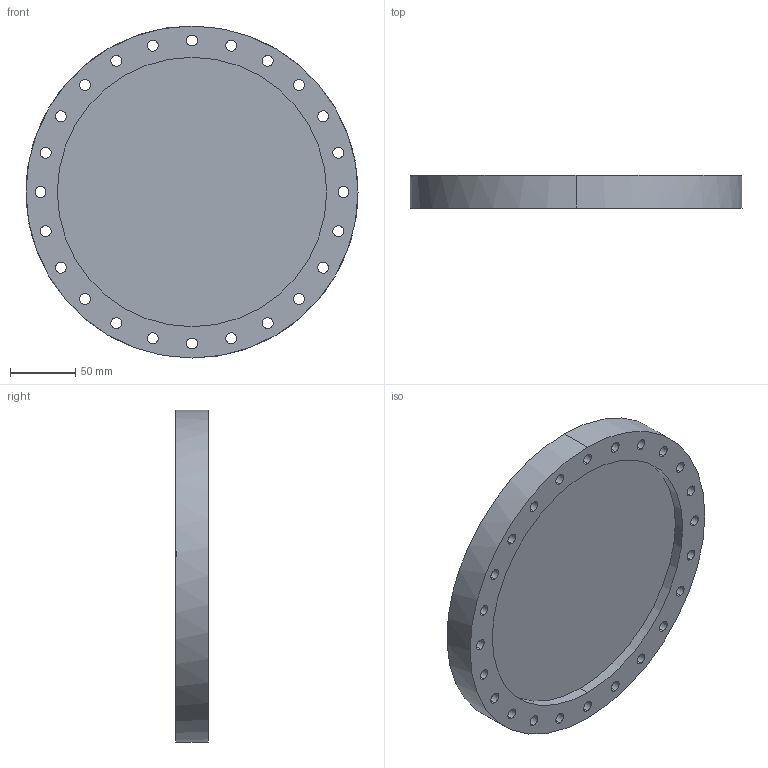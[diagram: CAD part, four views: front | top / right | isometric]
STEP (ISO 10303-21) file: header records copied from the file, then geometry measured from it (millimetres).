
FILE_DESCRIPTION (( 'STEP AP214' ), '1' );
FILE_NAME ('W6BCFD200.STEP', '2021-07-09T09:25:28', ( '' ), ( '' ), 'SwSTEP 2.0', 'SolidWorks 2020', '' );
FILE_SCHEMA (( 'AUTOMOTIVE_DESIGN' ));
Length unit declared in the file: millimetre
Products named in the file (1): W6BCFD200
Bounding box: 254 x 25 x 254 mm (x, y, z)
Volume: 923215.8 mm3; surface area: 173472.6 mm2
Topology: 2 solids, 2 shells, 80 faces, 212 edges, 138 vertices
Faces by surface type: cylinder 62, plane 8, cone 6, torus 4
Entity records: 2757 total; most frequent: DIRECTION 508, CARTESIAN_POINT 499, ORIENTED_EDGE 424, AXIS2_PLACEMENT_3D 219, EDGE_CURVE 212, VERTEX_POINT 138, CIRCLE 138, EDGE_LOOP 132
